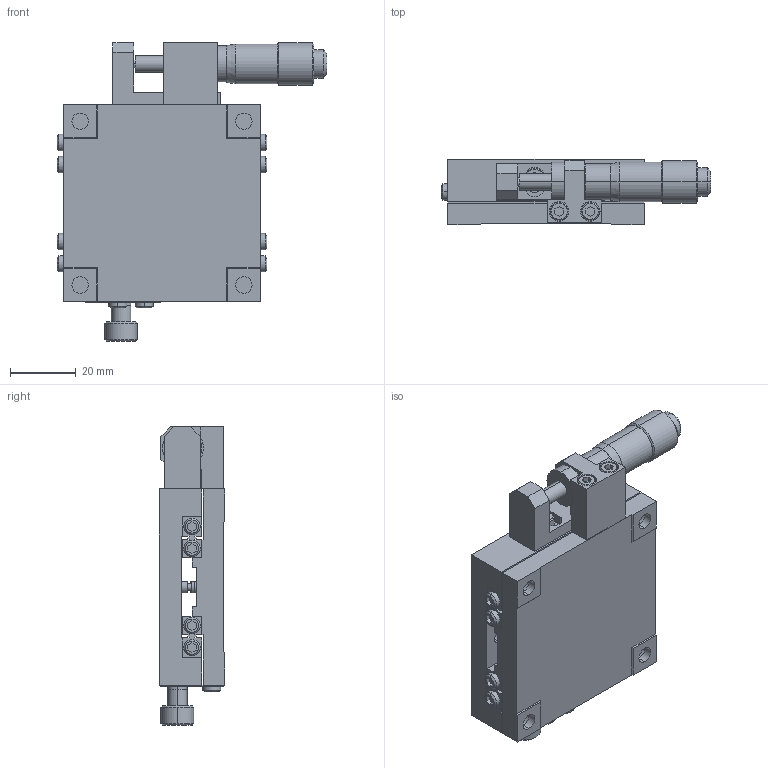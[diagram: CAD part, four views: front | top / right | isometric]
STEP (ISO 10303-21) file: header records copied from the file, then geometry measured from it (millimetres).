
FILE_DESCRIPTION (( 'STEP AP203' ), '1' );
FILE_NAME ('MX60-AS.STEP', '2008-08-02T03:56:28', ( '陳志豪' ), ( '高明鐵企業股份有限公司' ), 'SwSTEP 2.0', 'SolidWorks 2007', '' );
FILE_SCHEMA (( 'CONFIG_CONTROL_DESIGN' ));
Length unit declared in the file: millimetre
Products named in the file (1): MX60-AS
Bounding box: 82.3 x 20 x 91.2 mm (x, y, z)
Volume: 73206.2 mm3; surface area: 33387.1 mm2
Topology: 9 solids, 9 shells, 796 faces, 2048 edges, 1340 vertices
Faces by surface type: plane 472, cylinder 173, bspline 95, cone 56
Entity records: 29145 total; most frequent: CARTESIAN_POINT 9956, ORIENTED_EDGE 4072, DIRECTION 3660, EDGE_CURVE 2036, LINE 1436, VECTOR 1436, VERTEX_POINT 1340, AXIS2_PLACEMENT_3D 1112
